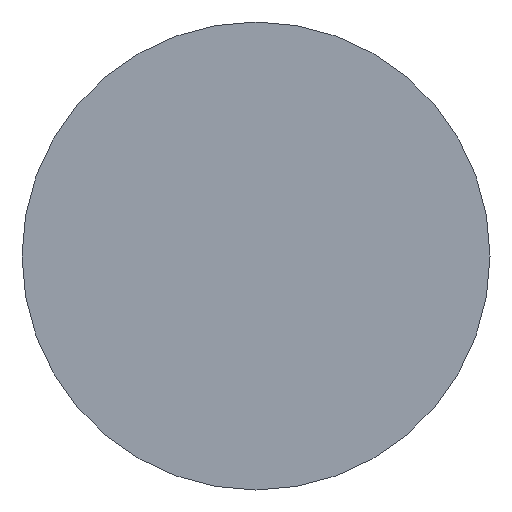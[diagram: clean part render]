
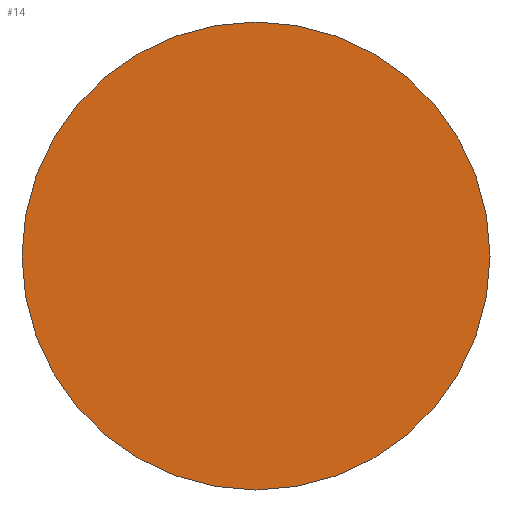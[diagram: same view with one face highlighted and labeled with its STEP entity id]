
A CAD part, left-side view. The second image highlights one B-rep face of the part: STEP entity #14.
In plain terms, the highlighted planar face has unit normal (-1, 0, 0).
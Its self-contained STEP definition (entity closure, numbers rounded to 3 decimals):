
#14 = ADVANCED_FACE ( 'NONE', ( #241 ), #250, .F. ) ;
#25 = CARTESIAN_POINT ( 'NONE',  ( 0., 0., -3.5 ) ) ;
#33 = ORIENTED_EDGE ( 'NONE', *, *, #160, .T. ) ;
#81 = AXIS2_PLACEMENT_3D ( 'NONE', #256, #225, #280 ) ;
#116 = DIRECTION ( 'NONE',  ( 0., 0., 1. ) ) ;
#121 = DIRECTION ( 'NONE',  ( -1., 0., 0. ) ) ;
#124 = CARTESIAN_POINT ( 'NONE',  ( 0., 0., 0. ) ) ;
#155 = VERTEX_POINT ( 'NONE', #25 ) ;
#160 = EDGE_CURVE ( 'NONE', #155, #236, #170, .T. ) ;
#168 = CARTESIAN_POINT ( 'NONE',  ( 0., 0., 3.5 ) ) ;
#170 = CIRCLE ( 'NONE', #268, 3.5 ) ;
#174 = CIRCLE ( 'NONE', #262, 3.5 ) ;
#191 = EDGE_CURVE ( 'NONE', #236, #155, #174, .T. ) ;
#219 = DIRECTION ( 'NONE',  ( -1., 0., 0. ) ) ;
#225 = DIRECTION ( 'NONE',  ( 1., 0., 0. ) ) ;
#234 = ORIENTED_EDGE ( 'NONE', *, *, #191, .T. ) ;
#236 = VERTEX_POINT ( 'NONE', #168 ) ;
#241 = FACE_OUTER_BOUND ( 'NONE', #292, .T. ) ;
#250 = PLANE ( 'NONE',  #81 ) ;
#256 = CARTESIAN_POINT ( 'NONE',  ( 0., 0., 0. ) ) ;
#262 = AXIS2_PLACEMENT_3D ( 'NONE', #124, #121, #116 ) ;
#268 = AXIS2_PLACEMENT_3D ( 'NONE', #273, #219, #279 ) ;
#273 = CARTESIAN_POINT ( 'NONE',  ( 0., 0., 0. ) ) ;
#279 = DIRECTION ( 'NONE',  ( 0., 0., 1. ) ) ;
#280 = DIRECTION ( 'NONE',  ( 0., 0., -1. ) ) ;
#292 = EDGE_LOOP ( 'NONE', ( #234, #33 ) ) ;
